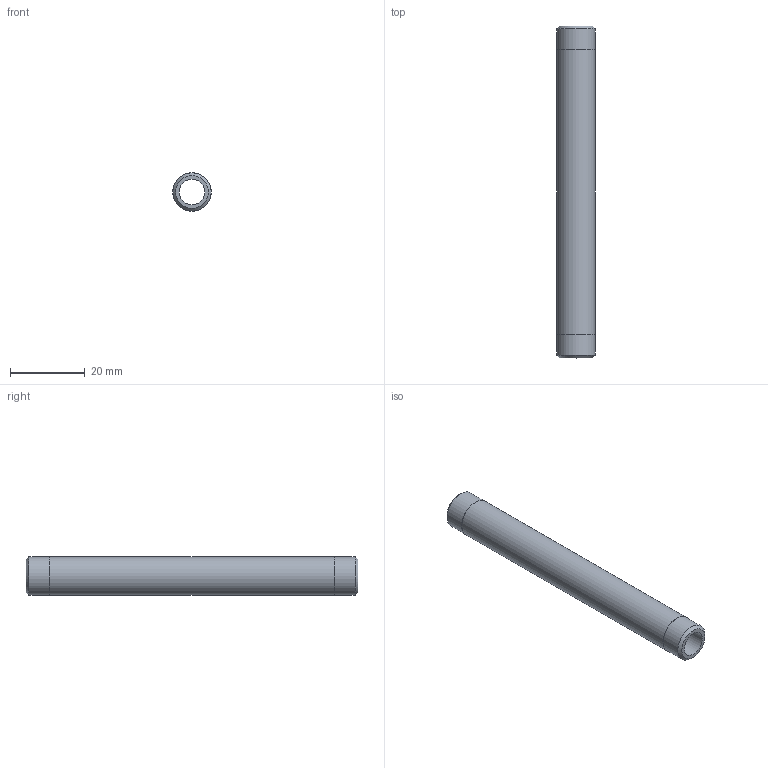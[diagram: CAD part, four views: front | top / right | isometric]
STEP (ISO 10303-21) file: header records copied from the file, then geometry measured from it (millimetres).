
FILE_DESCRIPTION(/* description */ (''),/* implementation_level */ '2;1');
FILE_NAME(/* name */ 'C:/Users/drich/Desktop/SSPN18-3-1_2 v1.step',/* time_stamp */ '2020-01-04T13:31:40-06:00',/* author */ (''),/* organization */ (''),/* preprocessor_version */ 'ST-DEVELOPER v18',/* originating_system */ 'Autodesk Translation Framework v8.12.0.6',/* authorisation */ '');
FILE_SCHEMA (('AUTOMOTIVE_DESIGN { 1 0 10303 214 3 1 1 }'));
Length unit declared in the file: inch
Products named in the file (1): SSPN18-3-1_2
Bounding box: 10.31 x 88.9 x 10.31 mm (x, y, z)
Volume: 4137.4 mm3; surface area: 4849.8 mm2
Topology: 1 solids, 1 shells, 10 faces, 24 edges, 18 vertices
Faces by surface type: cylinder 4, plane 4, cone 2
Full cylindrical faces by diameter (mm): 6.833 x1, 10.262 x2, 10.312 x1
Entity records: 353 total; most frequent: DIRECTION 64, CARTESIAN_POINT 53, ORIENTED_EDGE 48, AXIS2_PLACEMENT_3D 29, EDGE_CURVE 24, CIRCLE 18, VERTEX_POINT 18, EDGE_LOOP 14
